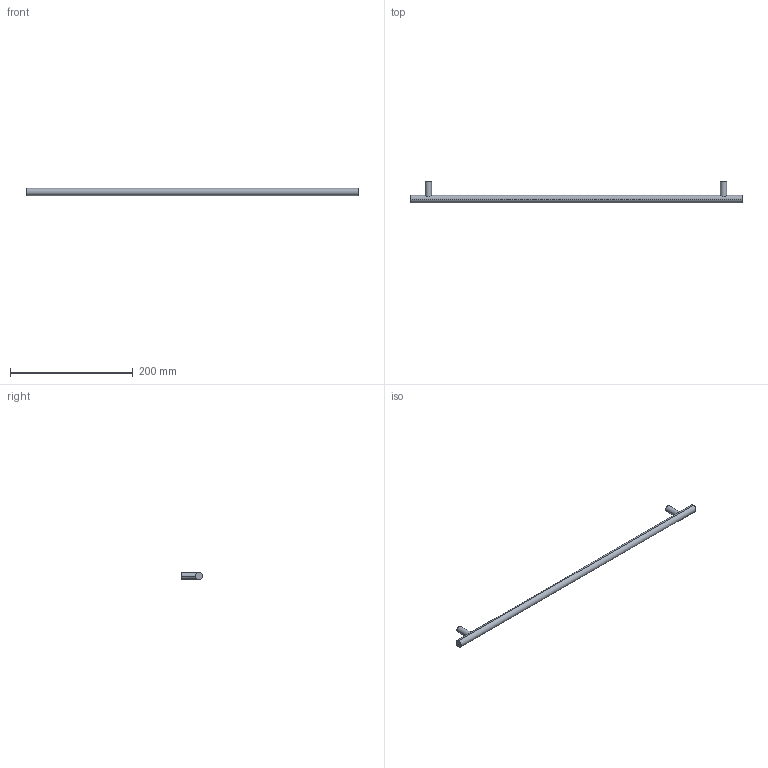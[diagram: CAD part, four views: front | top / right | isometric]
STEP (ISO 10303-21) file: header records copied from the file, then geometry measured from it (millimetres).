
FILE_DESCRIPTION( ( '' ), '1' );
FILE_NAME( 'D:/1.AUTOCAD EXPORT/Group 10/sheet_10_1/9071027.stp', '2013-10-21T10:24:53', ( '' ), ( '' ), ' ', ' ', ' ' );
FILE_SCHEMA( ( 'automotive_design' ) );
Length unit declared in the file: millimetre
Products named in the file (1): 1
Bounding box: 540 x 35 x 12 mm (x, y, z)
Volume: 64475 mm3; surface area: 22389.1 mm2
Topology: 1 solids, 1 shells, 16 faces, 32 edges, 22 vertices
Faces by surface type: cylinder 10, plane 6
Entity records: 972 total; most frequent: CARTESIAN_POINT 205, DIRECTION 76, STYLED_ITEM 71, PRESENTATION_STYLE_ASSIGNMENT 71, COLOUR_RGB 71, ORIENTED_EDGE 64, AXIS2_PLACEMENT_3D 33, EDGE_CURVE 32
